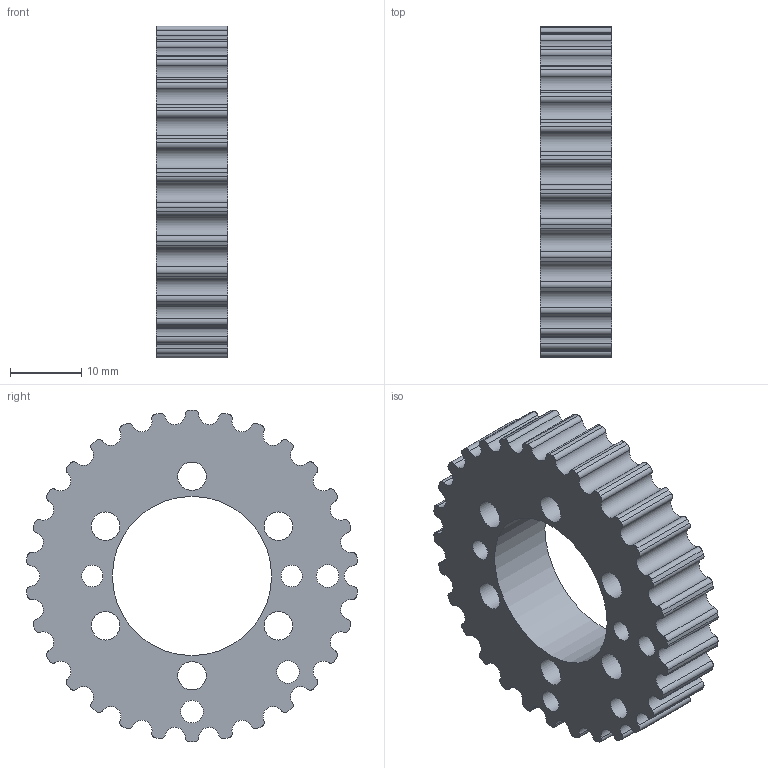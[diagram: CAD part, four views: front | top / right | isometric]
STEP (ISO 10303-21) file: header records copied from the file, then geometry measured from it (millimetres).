
FILE_DESCRIPTION(/* description */ (''),/* implementation_level */ '2;1');
FILE_NAME(/* name */ 'GPA30MR5150_A_H10_KSC28_K4_3 v1.step',/* time_stamp */ '2025-10-21T12:08:32-07:00',/* author */ (''),/* organization */ (''),/* preprocessor_version */ 'ST-DEVELOPER v20.1',/* originating_system */ 'Autodesk Translation Framework v14.17.0.0',/* authorisation */ '');
FILE_SCHEMA (('AUTOMOTIVE_DESIGN { 1 0 10303 214 3 1 1 }'));
Length unit declared in the file: inch
Products named in the file (1): GPA30MR5150_A_H10_KSC28_K4_3
Bounding box: 10 x 46.42 x 46.61 mm (x, y, z)
Volume: 10559.7 mm3; surface area: 6092.5 mm2
Topology: 1 solids, 1 shells, 134 faces, 396 edges, 264 vertices
Faces by surface type: cylinder 132, plane 2
Full cylindrical faces by diameter (mm): 3 x2, 3.175 x3, 4 x6, 22.352 x1
Entity records: 4860 total; most frequent: DIRECTION 930, CARTESIAN_POINT 795, ORIENTED_EDGE 792, AXIS2_PLACEMENT_3D 399, EDGE_CURVE 396, CIRCLE 264, VERTEX_POINT 264, EDGE_LOOP 158
